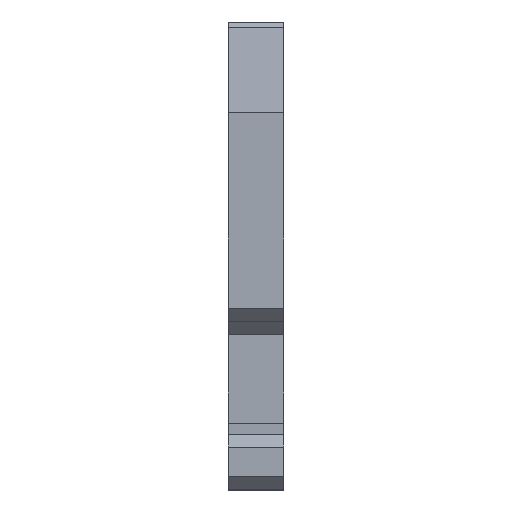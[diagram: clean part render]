
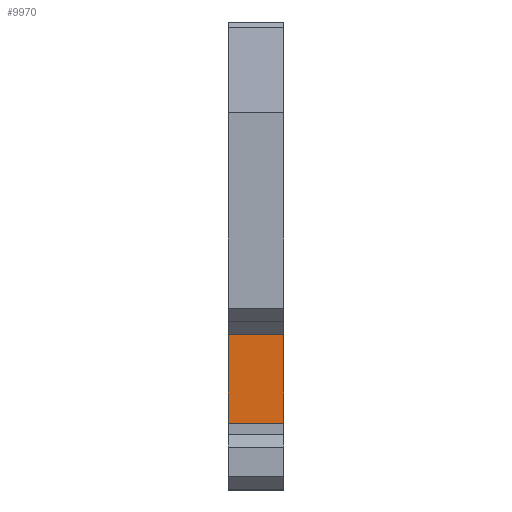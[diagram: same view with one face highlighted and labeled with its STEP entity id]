
A CAD part, left-side view. The second image highlights one B-rep face of the part: STEP entity #9970.
In plain terms, the highlighted free-form (B-spline) face has degree [1, 1] with [2, 2] control points.
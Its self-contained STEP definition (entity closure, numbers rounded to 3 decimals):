
#74 = B_SPLINE_SURFACE_WITH_KNOTS('',1,1,(
    (#75,#76)
    ,(#77,#78
    )),.UNSPECIFIED.,.F.,.F.,.F.,(2,2),(2,2),(-0.013,1.),(
    0.,1.122),.PIECEWISE_BEZIER_KNOTS.);
#75 = CARTESIAN_POINT('',(71.95,9.005,150.316
    ));
#76 = CARTESIAN_POINT('',(-158.663,9.005,66.38
    ));
#77 = CARTESIAN_POINT('',(147.699,9.005,-57.805)
  );
#78 = CARTESIAN_POINT('',(-82.913,9.005,-141.741
    ));
#298 = B_SPLINE_SURFACE_WITH_KNOTS('',1,1,(
    (#299,#300)
    ,(#301,#302)),.UNSPECIFIED.,.F.,.F.,.F.,(2,2),(2,2),(0.,1.),(0.,1.),
  .PIECEWISE_BEZIER_KNOTS.);
#299 = CARTESIAN_POINT('',(-8070.349,4.805,
    8072.469));
#300 = CARTESIAN_POINT('',(8049.707,4.805,
    8072.469));
#301 = CARTESIAN_POINT('',(-8070.349,4.805,
    -8062.278));
#302 = CARTESIAN_POINT('',(8049.707,4.805,
    -8062.278));
#9795 = ( BOUNDED_SURFACE() B_SPLINE_SURFACE(1,2,(
    (#9796,#9797,#9798,#9799,#9800)
    ,(#9801,#9802,#9803,#9804,#9805
)),.UNSPECIFIED.,.F.,.F.,.F.) B_SPLINE_SURFACE_WITH_KNOTS((2,2),(3,2,3),
  (0.,0.278),(0.,0.125,0.25),.UNSPECIFIED.) 
GEOMETRIC_REPRESENTATION_ITEM() RATIONAL_B_SPLINE_SURFACE((
    (0.854,0.854,1.,0.854,0.854)
    ,(0.854,0.854,1.,0.854,0.854
))) REPRESENTATION_ITEM('') SURFACE() );
#9796 = CARTESIAN_POINT('',(-51.7,9.005,-9.305));
#9797 = CARTESIAN_POINT('',(-51.7,9.005,-8.891));
#9798 = CARTESIAN_POINT('',(-51.993,9.005,
    -8.598));
#9799 = CARTESIAN_POINT('',(-52.286,9.005,
    -8.305));
#9800 = CARTESIAN_POINT('',(-52.7,9.005,-8.305));
#9801 = CARTESIAN_POINT('',(-51.7,4.805,-9.305));
#9802 = CARTESIAN_POINT('',(-51.7,4.805,-8.891));
#9803 = CARTESIAN_POINT('',(-51.993,4.805,
    -8.598));
#9804 = CARTESIAN_POINT('',(-52.286,4.805,
    -8.305));
#9805 = CARTESIAN_POINT('',(-52.7,4.805,-8.305));
#9834 = VERTEX_POINT('',#9835);
#9835 = CARTESIAN_POINT('',(-51.7,9.005,-9.305));
#9900 = EDGE_CURVE('',#9834,#9901,#9903,.T.);
#9901 = VERTEX_POINT('',#9902);
#9902 = CARTESIAN_POINT('',(-51.7,4.805,-9.305));
#9903 = SURFACE_CURVE('',#9904,(#9907,#9913),.PCURVE_S1.);
#9904 = B_SPLINE_CURVE_WITH_KNOTS('',1,(#9905,#9906),.UNSPECIFIED.,.F.,
  .F.,(2,2),(0.,1.),.PIECEWISE_BEZIER_KNOTS.);
#9905 = CARTESIAN_POINT('',(-51.7,9.005,-9.305));
#9906 = CARTESIAN_POINT('',(-51.7,4.805,-9.305));
#9907 = PCURVE('',#9795,#9908);
#9908 = DEFINITIONAL_REPRESENTATION('',(#9909),#9912);
#9909 = B_SPLINE_CURVE_WITH_KNOTS('',1,(#9910,#9911),.UNSPECIFIED.,.F.,
  .F.,(2,2),(0.,1.),.PIECEWISE_BEZIER_KNOTS.);
#9910 = CARTESIAN_POINT('',(0.,0.));
#9911 = CARTESIAN_POINT('',(0.278,0.));
#9912 = ( GEOMETRIC_REPRESENTATION_CONTEXT(2) 
PARAMETRIC_REPRESENTATION_CONTEXT() REPRESENTATION_CONTEXT('2D SPACE',''
  ) );
#9913 = PCURVE('',#9914,#9919);
#9914 = B_SPLINE_SURFACE_WITH_KNOTS('',1,1,(
    (#9915,#9916)
    ,(#9917,#9918
    )),.UNSPECIFIED.,.F.,.F.,.F.,(2,2),(2,2),(0.,1.),(0.,1.),
  .PIECEWISE_BEZIER_KNOTS.);
#9915 = CARTESIAN_POINT('',(-51.7,-12.646,-25.806));
#9916 = CARTESIAN_POINT('',(-51.7,20.356,-25.806));
#9917 = CARTESIAN_POINT('',(-51.7,-12.646,7.196));
#9918 = CARTESIAN_POINT('',(-51.7,20.356,7.196));
#9919 = DEFINITIONAL_REPRESENTATION('',(#9920),#9923);
#9920 = B_SPLINE_CURVE_WITH_KNOTS('',1,(#9921,#9922),.UNSPECIFIED.,.F.,
  .F.,(2,2),(0.,1.),.PIECEWISE_BEZIER_KNOTS.);
#9921 = CARTESIAN_POINT('',(0.5,0.656));
#9922 = CARTESIAN_POINT('',(0.5,0.529));
#9923 = ( GEOMETRIC_REPRESENTATION_CONTEXT(2) 
PARAMETRIC_REPRESENTATION_CONTEXT() REPRESENTATION_CONTEXT('2D SPACE',''
  ) );
#9970 = ADVANCED_FACE('',(#9971),#9914,.T.);
#9971 = FACE_BOUND('',#9972,.T.);
#9972 = EDGE_LOOP('',(#9973,#9974,#9994,#10019));
#9973 = ORIENTED_EDGE('',*,*,#9900,.F.);
#9974 = ORIENTED_EDGE('',*,*,#9975,.T.);
#9975 = EDGE_CURVE('',#9834,#9976,#9978,.T.);
#9976 = VERTEX_POINT('',#9977);
#9977 = CARTESIAN_POINT('',(-51.7,9.005,
    -16.001));
#9978 = SURFACE_CURVE('',#9979,(#9982,#9988),.PCURVE_S1.);
#9979 = B_SPLINE_CURVE_WITH_KNOTS('',1,(#9980,#9981),.UNSPECIFIED.,.F.,
  .F.,(2,2),(0.,1.),.PIECEWISE_BEZIER_KNOTS.);
#9980 = CARTESIAN_POINT('',(-51.7,9.005,-9.305));
#9981 = CARTESIAN_POINT('',(-51.7,9.005,
    -16.001));
#9982 = PCURVE('',#9914,#9983);
#9983 = DEFINITIONAL_REPRESENTATION('',(#9984),#9987);
#9984 = B_SPLINE_CURVE_WITH_KNOTS('',1,(#9985,#9986),.UNSPECIFIED.,.F.,
  .F.,(2,2),(0.,1.),.PIECEWISE_BEZIER_KNOTS.);
#9985 = CARTESIAN_POINT('',(0.5,0.656));
#9986 = CARTESIAN_POINT('',(0.297,0.656));
#9987 = ( GEOMETRIC_REPRESENTATION_CONTEXT(2) 
PARAMETRIC_REPRESENTATION_CONTEXT() REPRESENTATION_CONTEXT('2D SPACE',''
  ) );
#9988 = PCURVE('',#74,#9989);
#9989 = DEFINITIONAL_REPRESENTATION('',(#9990),#9993);
#9990 = B_SPLINE_CURVE_WITH_KNOTS('',1,(#9991,#9992),.UNSPECIFIED.,.F.,
  .F.,(2,2),(0.,1.),.PIECEWISE_BEZIER_KNOTS.);
#9991 = CARTESIAN_POINT('',(0.48,0.781));
#9992 = CARTESIAN_POINT('',(0.508,0.792));
#9993 = ( GEOMETRIC_REPRESENTATION_CONTEXT(2) 
PARAMETRIC_REPRESENTATION_CONTEXT() REPRESENTATION_CONTEXT('2D SPACE',''
  ) );
#9994 = ORIENTED_EDGE('',*,*,#9995,.T.);
#9995 = EDGE_CURVE('',#9976,#9996,#9998,.T.);
#9996 = VERTEX_POINT('',#9997);
#9997 = CARTESIAN_POINT('',(-51.7,4.805,
    -16.001));
#9998 = SURFACE_CURVE('',#9999,(#10002,#10008),.PCURVE_S1.);
#9999 = B_SPLINE_CURVE_WITH_KNOTS('',1,(#10000,#10001),.UNSPECIFIED.,.F.
  ,.F.,(2,2),(0.,1.),.PIECEWISE_BEZIER_KNOTS.);
#10000 = CARTESIAN_POINT('',(-51.7,9.005,-16.001));
#10001 = CARTESIAN_POINT('',(-51.7,4.805,-16.001));
#10002 = PCURVE('',#9914,#10003);
#10003 = DEFINITIONAL_REPRESENTATION('',(#10004),#10007);
#10004 = B_SPLINE_CURVE_WITH_KNOTS('',1,(#10005,#10006),.UNSPECIFIED.,
  .F.,.F.,(2,2),(0.,1.),.PIECEWISE_BEZIER_KNOTS.);
#10005 = CARTESIAN_POINT('',(0.297,0.656));
#10006 = CARTESIAN_POINT('',(0.297,0.529));
#10007 = ( GEOMETRIC_REPRESENTATION_CONTEXT(2) 
PARAMETRIC_REPRESENTATION_CONTEXT() REPRESENTATION_CONTEXT('2D SPACE',''
  ) );
#10008 = PCURVE('',#10009,#10014);
#10009 = B_SPLINE_SURFACE_WITH_KNOTS('',1,1,(
    (#10010,#10011)
    ,(#10012,#10013
    )),.UNSPECIFIED.,.F.,.F.,.F.,(2,2),(2,2),(0.,7.854),(
    -6.952,1.),.PIECEWISE_BEZIER_KNOTS.);
#10010 = CARTESIAN_POINT('',(-58.617,-55.173,
    -18.125));
#10011 = CARTESIAN_POINT('',(-58.617,13.312,
    -18.125));
#10012 = CARTESIAN_POINT('',(6.043,-55.173,
    1.729));
#10013 = CARTESIAN_POINT('',(6.043,13.312,
    1.729));
#10014 = DEFINITIONAL_REPRESENTATION('',(#10015),#10018);
#10015 = B_SPLINE_CURVE_WITH_KNOTS('',1,(#10016,#10017),.UNSPECIFIED.,
  .F.,.F.,(2,2),(0.,1.),.PIECEWISE_BEZIER_KNOTS.);
#10016 = CARTESIAN_POINT('',(0.84,0.5));
#10017 = CARTESIAN_POINT('',(0.84,0.012));
#10018 = ( GEOMETRIC_REPRESENTATION_CONTEXT(2) 
PARAMETRIC_REPRESENTATION_CONTEXT() REPRESENTATION_CONTEXT('2D SPACE',''
  ) );
#10019 = ORIENTED_EDGE('',*,*,#10020,.T.);
#10020 = EDGE_CURVE('',#9996,#9901,#10021,.T.);
#10021 = SURFACE_CURVE('',#10022,(#10025,#10031),.PCURVE_S1.);
#10022 = B_SPLINE_CURVE_WITH_KNOTS('',1,(#10023,#10024),.UNSPECIFIED.,
  .F.,.F.,(2,2),(0.699,0.841),
  .PIECEWISE_BEZIER_KNOTS.);
#10023 = CARTESIAN_POINT('',(-51.7,4.805,-16.001));
#10024 = CARTESIAN_POINT('',(-51.7,4.805,-9.305));
#10025 = PCURVE('',#9914,#10026);
#10026 = DEFINITIONAL_REPRESENTATION('',(#10027),#10030);
#10027 = B_SPLINE_CURVE_WITH_KNOTS('',1,(#10028,#10029),.UNSPECIFIED.,
  .F.,.F.,(2,2),(0.699,0.841),
  .PIECEWISE_BEZIER_KNOTS.);
#10028 = CARTESIAN_POINT('',(0.297,0.529));
#10029 = CARTESIAN_POINT('',(0.5,0.529));
#10030 = ( GEOMETRIC_REPRESENTATION_CONTEXT(2) 
PARAMETRIC_REPRESENTATION_CONTEXT() REPRESENTATION_CONTEXT('2D SPACE',''
  ) );
#10031 = PCURVE('',#298,#10032);
#10032 = DEFINITIONAL_REPRESENTATION('',(#10033),#10036);
#10033 = B_SPLINE_CURVE_WITH_KNOTS('',1,(#10034,#10035),.UNSPECIFIED.,
  .F.,.F.,(2,2),(0.699,0.841),
  .PIECEWISE_BEZIER_KNOTS.);
#10034 = CARTESIAN_POINT('',(0.501,0.497));
#10035 = CARTESIAN_POINT('',(0.501,0.497));
#10036 = ( GEOMETRIC_REPRESENTATION_CONTEXT(2) 
PARAMETRIC_REPRESENTATION_CONTEXT() REPRESENTATION_CONTEXT('2D SPACE',''
  ) );
